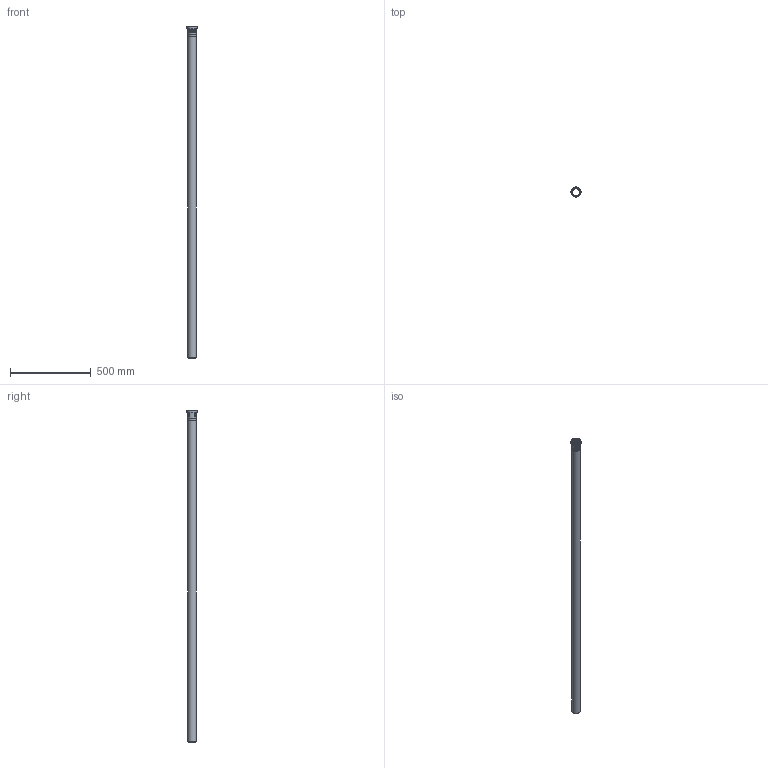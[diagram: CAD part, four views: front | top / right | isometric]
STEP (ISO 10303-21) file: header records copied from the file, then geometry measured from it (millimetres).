
FILE_DESCRIPTION(/* description */ (''),/* implementation_level */ '2;1');
FILE_NAME(/* name */ 'Z:\Geberit\Export\NewStep\390206.stp',/* time_stamp */ '2014-04-02T08:09:40+02:00',/* author */ ('ML'),/* organization */ (''),/* preprocessor_version */ 'ST-DEVELOPER v15.2',/* originating_system */ 'Autodesk Inventor 2014',/* authorisation */ '');
FILE_SCHEMA (('AUTOMOTIVE_DESIGN { 1 0 10303 214 3 1 1 }'));
Length unit declared in the file: millimetre
Products named in the file (3): 861422; 861582ohne; 390206
Bounding box: 63.5 x 63.5 x 2050.8 mm (x, y, z)
Volume: 629113.9 mm3; surface area: 630680.7 mm2
Topology: 2 solids, 2 shells, 47 faces, 104 edges, 71 vertices
Faces by surface type: torus 24, cylinder 11, plane 10, cone 2
Full cylindrical faces by diameter (mm): 46.15 x2, 50.15 x2, 50.8 x2, 52.8 x1, 54.8 x2, 59.5 x1, 63.5 x1
Entity records: 1971 total; most frequent: CARTESIAN_POINT 930, DIRECTION 182, ORIENTED_EDGE 174, AXIS2_PLACEMENT_3D 91, EDGE_CURVE 87, EDGE_LOOP 78, VERTEX_POINT 71, STYLED_ITEM 49
